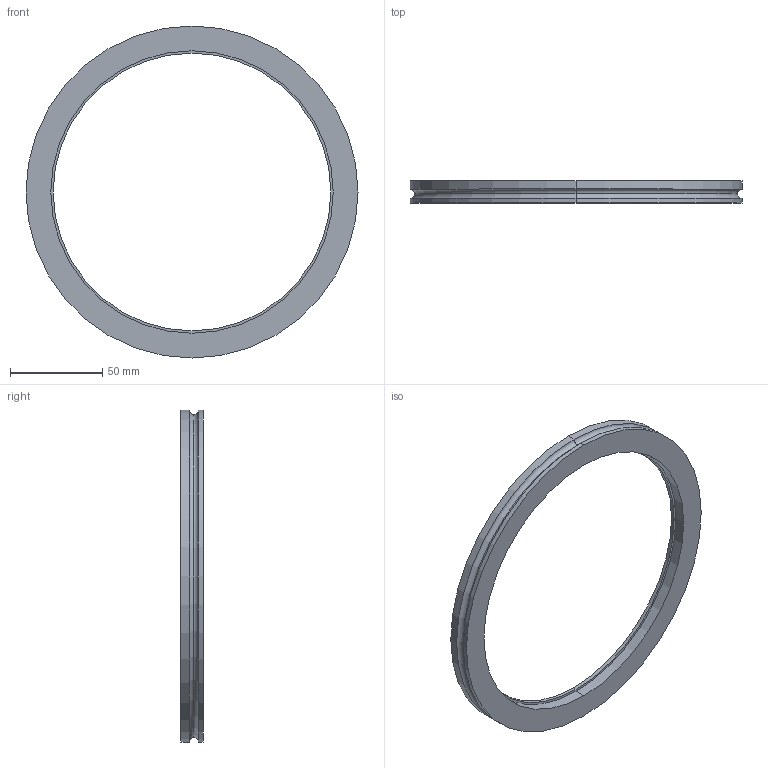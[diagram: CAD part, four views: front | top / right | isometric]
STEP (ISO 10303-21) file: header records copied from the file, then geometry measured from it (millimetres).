
FILE_DESCRIPTION (( 'STEP AP214' ), '1' );
FILE_NAME ('W4KL160.STEP', '2019-03-28T07:43:56', ( '' ), ( '' ), 'SwSTEP 2.0', 'SolidWorks 2018', '' );
FILE_SCHEMA (( 'AUTOMOTIVE_DESIGN' ));
Length unit declared in the file: millimetre
Products named in the file (1): W4KL160
Bounding box: 180 x 12 x 180 mm (x, y, z)
Volume: 64971.7 mm3; surface area: 29578.7 mm2
Topology: 1 solids, 1 shells, 21 faces, 42 edges, 26 vertices
Faces by surface type: cylinder 12, plane 5, torus 4
Entity records: 596 total; most frequent: DIRECTION 116, CARTESIAN_POINT 90, ORIENTED_EDGE 84, AXIS2_PLACEMENT_3D 52, EDGE_CURVE 42, CIRCLE 30, VERTEX_POINT 26, EDGE_LOOP 26
